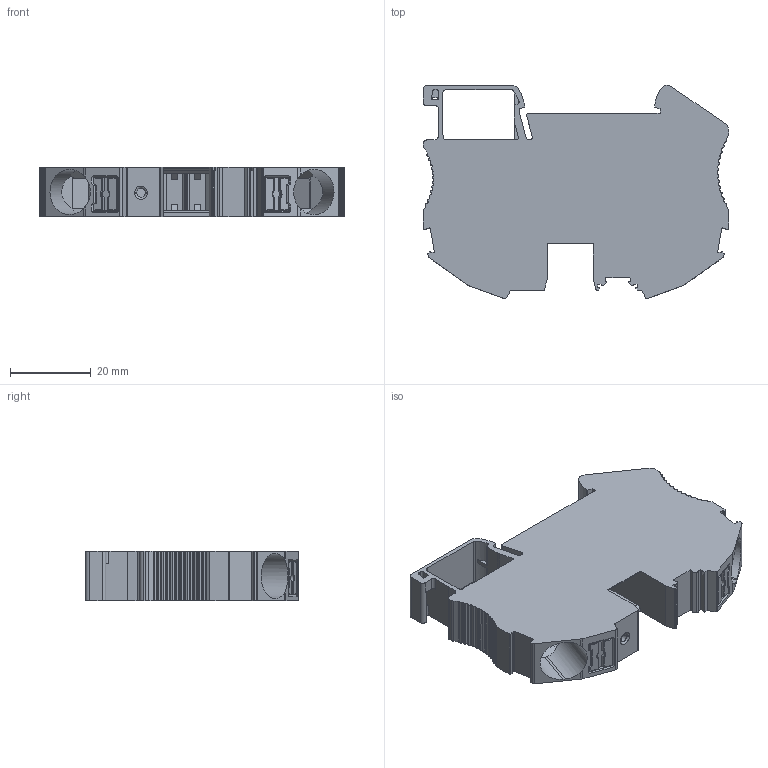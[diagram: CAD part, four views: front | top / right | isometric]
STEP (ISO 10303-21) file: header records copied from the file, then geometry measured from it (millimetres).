
FILE_DESCRIPTION((''),'2;1');
FILE_NAME('UPT-1-6ASSY','2024-03-29T15:51:16',('Administrator'),(''),'CREO PARAMETRIC BY PTC INC, 2018050','CREO PARAMETRIC BY PTC INC, 2018050','');
FILE_SCHEMA(('CONFIG_CONTROL_DESIGN'));
Length unit declared in the file: millimetre
Products named in the file (1): UPT-1-6ASSY
Bounding box: 75.4 x 52.63 x 12.15 mm (x, y, z)
Volume: 30310.5 mm3; surface area: 13433.8 mm2
Topology: 1 solids, 2 shells, 626 faces, 1798 edges, 1146 vertices
Faces by surface type: cylinder 292, plane 261, sphere 30, cone 29, torus 10, bspline 4
Entity records: 20842 total; most frequent: CARTESIAN_POINT 4323, ORIENTED_EDGE 3532, DIRECTION 3489, EDGE_CURVE 1766, AXIS2_PLACEMENT_3D 1229, VERTEX_POINT 1146, VECTOR 1031, LINE 1031
